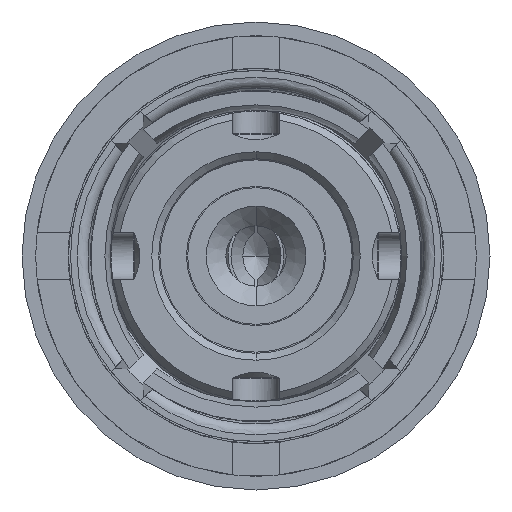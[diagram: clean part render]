
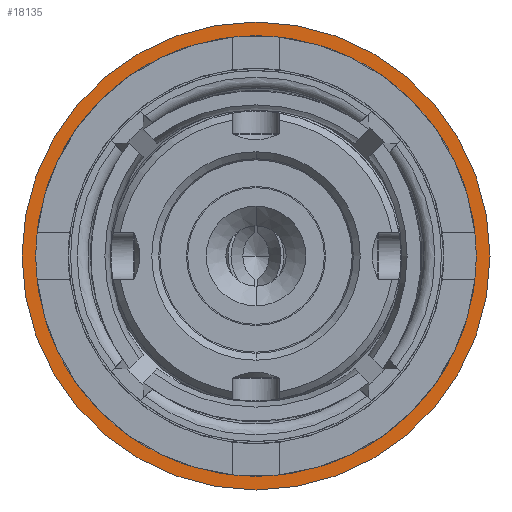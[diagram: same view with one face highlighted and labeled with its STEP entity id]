
A CAD part, front view. The second image highlights one B-rep face of the part: STEP entity #18135.
In plain terms, the highlighted planar face has unit normal (0, -1, 0).
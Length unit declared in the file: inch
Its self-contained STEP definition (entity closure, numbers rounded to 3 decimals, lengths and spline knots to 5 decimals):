
#15051=CARTESIAN_POINT('',(0.,0.03,0.));
#15052=DIRECTION('',(0.,-1.,0.));
#15053=DIRECTION('',(-1.,0.,0.));
#15054=AXIS2_PLACEMENT_3D('',#15051,#15052,#15053);
#15367=CARTESIAN_POINT('',(0.,0.03,0.));
#15368=DIRECTION('',(0.,-1.,0.));
#15369=DIRECTION('',(1.,0.,0.));
#15370=AXIS2_PLACEMENT_3D('',#15367,#15368,#15369);
#16243=CARTESIAN_POINT('',(0.,0.03,0.));
#16244=DIRECTION('',(0.,1.,0.));
#16245=DIRECTION('',(1.,0.,0.));
#16246=AXIS2_PLACEMENT_3D('',#16243,#16244,#16245);
#16251=CARTESIAN_POINT('',(0.,0.03,0.));
#16252=DIRECTION('',(0.,-1.,0.));
#16253=DIRECTION('',(1.,0.,0.));
#16254=AXIS2_PLACEMENT_3D('',#16251,#16252,#16253);
#16435=CARTESIAN_POINT('',(0.101,0.03,0.));
#16437=VERTEX_POINT('',#16435);
#16455=CARTESIAN_POINT('',(-0.101,0.03,0.));
#16457=VERTEX_POINT('',#16455);
#16491=CARTESIAN_POINT('',(-0.095,0.03,0.));
#16492=CARTESIAN_POINT('',(0.095,0.03,0.));
#16493=VERTEX_POINT('',#16491);
#16494=VERTEX_POINT('',#16492);
#18122=CARTESIAN_POINT('',(0.,0.03,0.));
#18123=DIRECTION('',(0.,-1.,0.));
#18124=DIRECTION('',(-1.,0.,0.));
#18125=AXIS2_PLACEMENT_3D('',#18122,#18123,#18124);
#18126=PLANE('',#18125);
#18127=ORIENTED_EDGE('',*,*,#18108,.F.);
#18128=ORIENTED_EDGE('',*,*,#18090,.T.);
#18129=EDGE_LOOP('',(#18127,#18128));
#18130=FACE_OUTER_BOUND('',#18129,.F.);
#18131=ORIENTED_EDGE('',*,*,#16635,.T.);
#18132=ORIENTED_EDGE('',*,*,#16881,.T.);
#18133=EDGE_LOOP('',(#18131,#18132));
#18134=FACE_BOUND('',#18133,.F.);
#18135=ADVANCED_FACE('',(#18130,#18134),#18126,.T.);
#15055=CIRCLE('',#15054,0.095);
#15371=CIRCLE('',#15370,0.095);
#16247=CIRCLE('',#16246,0.101);
#16255=CIRCLE('',#16254,0.101);
#16635=EDGE_CURVE('',#16493,#16494,#15055,.T.);
#16881=EDGE_CURVE('',#16494,#16493,#15371,.T.);
#18090=EDGE_CURVE('',#16437,#16457,#16247,.T.);
#18108=EDGE_CURVE('',#16437,#16457,#16255,.T.);
